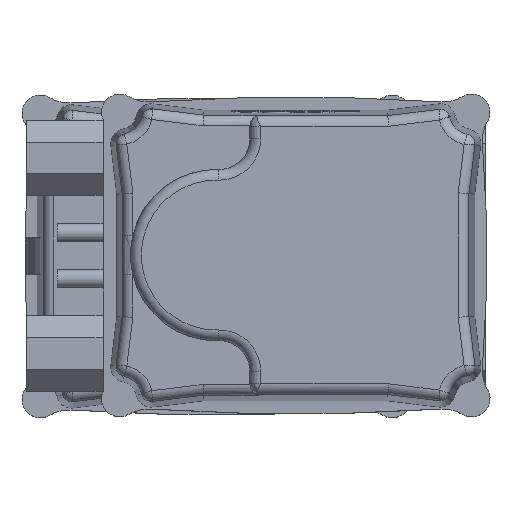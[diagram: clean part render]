
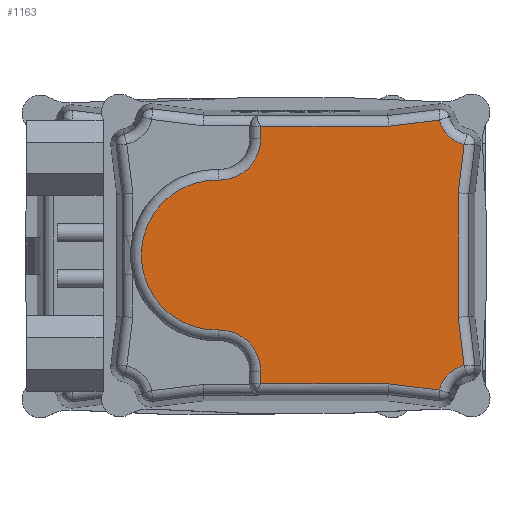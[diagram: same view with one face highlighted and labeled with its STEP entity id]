
A CAD part, top view. The second image highlights one B-rep face of the part: STEP entity #1163.
In plain terms, the highlighted planar face has unit normal (0, 0, 1).
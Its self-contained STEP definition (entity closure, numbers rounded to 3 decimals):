
#1163 = ADVANCED_FACE( '', ( #2649 ), #2650, .T. );
#2649 = FACE_OUTER_BOUND( '', #6771, .T. );
#2650 = PLANE( '', #6772 );
#6771 = EDGE_LOOP( '', ( #12050, #12051, #12052, #12053, #12054, #12055, #12056, #12057, #12058, #12059, #12060, #12061, #12062, #12063, #12064, #12065 ) );
#6772 = AXIS2_PLACEMENT_3D( '', #12066, #12067, #12068 );
#12050 = ORIENTED_EDGE( '', *, *, #16273, .T. );
#12051 = ORIENTED_EDGE( '', *, *, #15842, .T. );
#12052 = ORIENTED_EDGE( '', *, *, #15672, .T. );
#12053 = ORIENTED_EDGE( '', *, *, #16274, .T. );
#12054 = ORIENTED_EDGE( '', *, *, #15618, .T. );
#12055 = ORIENTED_EDGE( '', *, *, #15845, .T. );
#12056 = ORIENTED_EDGE( '', *, *, #16275, .T. );
#12057 = ORIENTED_EDGE( '', *, *, #16276, .T. );
#12058 = ORIENTED_EDGE( '', *, *, #15582, .T. );
#12059 = ORIENTED_EDGE( '', *, *, #15244, .T. );
#12060 = ORIENTED_EDGE( '', *, *, #16058, .T. );
#12061 = ORIENTED_EDGE( '', *, *, #16277, .T. );
#12062 = ORIENTED_EDGE( '', *, *, #15916, .T. );
#12063 = ORIENTED_EDGE( '', *, *, #15439, .T. );
#12064 = ORIENTED_EDGE( '', *, *, #16278, .T. );
#12065 = ORIENTED_EDGE( '', *, *, #15408, .T. );
#12066 = CARTESIAN_POINT( '', ( 47.227, -44.578, 84. ) );
#12067 = DIRECTION( '', ( 0., 0., 1. ) );
#12068 = DIRECTION( '', ( 1., 0., 0. ) );
#15244 = EDGE_CURVE( '', #17424, #17428, #17430, .F. );
#15408 = EDGE_CURVE( '', #17692, #17696, #17698, .T. );
#15439 = EDGE_CURVE( '', #17743, #17747, #17749, .T. );
#15582 = EDGE_CURVE( '', #17976, #17424, #17977, .T. );
#15618 = EDGE_CURVE( '', #18034, #18032, #18035, .T. );
#15672 = EDGE_CURVE( '', #18121, #17459, #18122, .F. );
#15842 = EDGE_CURVE( '', #18402, #18121, #18405, .T. );
#15845 = EDGE_CURVE( '', #18032, #18408, #18410, .T. );
#15916 = EDGE_CURVE( '', #18513, #17743, #18517, .T. );
#16058 = EDGE_CURVE( '', #17428, #18723, #18725, .T. );
#16273 = EDGE_CURVE( '', #17696, #18402, #19025, .T. );
#16274 = EDGE_CURVE( '', #17459, #18034, #19026, .T. );
#16275 = EDGE_CURVE( '', #18408, #19027, #19028, .T. );
#16276 = EDGE_CURVE( '', #19027, #17976, #19029, .F. );
#16277 = EDGE_CURVE( '', #18723, #18513, #19030, .T. );
#16278 = EDGE_CURVE( '', #17747, #17692, #19031, .F. );
#17424 = VERTEX_POINT( '', #21309 );
#17428 = VERTEX_POINT( '', #21313 );
#17430 = CIRCLE( '', #21315, 13.5 );
#17459 = VERTEX_POINT( '', #21394 );
#17692 = VERTEX_POINT( '', #22367 );
#17696 = VERTEX_POINT( '', #22389 );
#17698 = LINE( '', #22391, #22392 );
#17743 = VERTEX_POINT( '', #22446 );
#17747 = VERTEX_POINT( '', #22451 );
#17749 = LINE( '', #22474, #22475 );
#17976 = VERTEX_POINT( '', #22861 );
#17977 = CIRCLE( '', #22862, 24.5 );
#18032 = VERTEX_POINT( '', #23057 );
#18034 = VERTEX_POINT( '', #23080 );
#18035 = LINE( '', #23081, #23082 );
#18121 = VERTEX_POINT( '', #23312 );
#18122 = CIRCLE( '', #23313, 10.907 );
#18402 = VERTEX_POINT( '', #24186 );
#18405 = LINE( '', #24206, #24207 );
#18408 = VERTEX_POINT( '', #24210 );
#18410 = CIRCLE( '', #24212, 0.5 );
#18513 = VERTEX_POINT( '', #24416 );
#18517 = LINE( '', #24442, #24443 );
#18723 = VERTEX_POINT( '', #24960 );
#18725 = LINE( '', #24962, #24963 );
#19025 = LINE( '', #25621, #25622 );
#19026 = LINE( '', #25623, #25624 );
#19027 = VERTEX_POINT( '', #25625 );
#19028 = LINE( '', #25626, #25627 );
#19029 = CIRCLE( '', #25628, 13.5 );
#19030 = CIRCLE( '', #25629, 0.5 );
#19031 = CIRCLE( '', #25630, 10.907 );
#21309 = CARTESIAN_POINT( '', ( 25.355, 24.492, 84. ) );
#21313 = CARTESIAN_POINT( '', ( 11.5, 37.987, 84. ) );
#21315 = AXIS2_PLACEMENT_3D( '', #28116, #28117, #28118 );
#21394 = CARTESIAN_POINT( '', ( -46.913, -44.129, 84. ) );
#22367 = CARTESIAN_POINT( '', ( -55.033, 36.126, 84. ) );
#22389 = CARTESIAN_POINT( '', ( -53.093, 20.331, 84. ) );
#22391 = CARTESIAN_POINT( '', ( -43.752, -55.749, 84. ) );
#22392 = VECTOR( '', #28279, 1000. );
#22446 = CARTESIAN_POINT( '', ( -30.331, 42.093, 84. ) );
#22451 = CARTESIAN_POINT( '', ( -46.913, 44.129, 84. ) );
#22474 = CARTESIAN_POINT( '', ( 56.559, 31.425, 84. ) );
#22475 = VECTOR( '', #28322, 1000. );
#22861 = CARTESIAN_POINT( '', ( 25.355, -24.492, 84. ) );
#22862 = AXIS2_PLACEMENT_3D( '', #28478, #28479, #28480 );
#23057 = CARTESIAN_POINT( '', ( 11.491, -42.093, 84. ) );
#23080 = CARTESIAN_POINT( '', ( -30.331, -42.093, 84. ) );
#23081 = CARTESIAN_POINT( '', ( 47.227, -42.093, 84. ) );
#23082 = VECTOR( '', #28509, 1000. );
#23312 = CARTESIAN_POINT( '', ( -55.033, -36.126, 84. ) );
#23313 = AXIS2_PLACEMENT_3D( '', #28562, #28563, #28564 );
#24186 = CARTESIAN_POINT( '', ( -53.093, -20.331, 84. ) );
#24206 = CARTESIAN_POINT( '', ( -54.536, -32.083, 84. ) );
#24207 = VECTOR( '', #28702, 1000. );
#24210 = CARTESIAN_POINT( '', ( 11.5, -42., 84. ) );
#24212 = AXIS2_PLACEMENT_3D( '', #28706, #28707, #28708 );
#24416 = CARTESIAN_POINT( '', ( 11.491, 42.093, 84. ) );
#24442 = CARTESIAN_POINT( '', ( 47.227, 42.093, 84. ) );
#24443 = VECTOR( '', #28795, 1000. );
#24960 = CARTESIAN_POINT( '', ( 11.5, 42., 84. ) );
#24962 = CARTESIAN_POINT( '', ( 11.5, -44.578, 84. ) );
#24963 = VECTOR( '', #28951, 1000. );
#25621 = CARTESIAN_POINT( '', ( -53.093, -44.578, 84. ) );
#25622 = VECTOR( '', #29188, 1000. );
#25623 = CARTESIAN_POINT( '', ( 45.775, -32.749, 84. ) );
#25624 = VECTOR( '', #29189, 1000. );
#25625 = CARTESIAN_POINT( '', ( 11.5, -37.987, 84. ) );
#25626 = CARTESIAN_POINT( '', ( 11.5, -44.578, 84. ) );
#25627 = VECTOR( '', #29190, 1000. );
#25628 = AXIS2_PLACEMENT_3D( '', #29191, #29192, #29193 );
#25629 = AXIS2_PLACEMENT_3D( '', #29194, #29195, #29196 );
#25630 = AXIS2_PLACEMENT_3D( '', #29197, #29198, #29199 );
#28116 = CARTESIAN_POINT( '', ( 25., 37.987, 84. ) );
#28117 = DIRECTION( '', ( 0., 0., 1. ) );
#28118 = DIRECTION( '', ( 1., 0., 0. ) );
#28279 = DIRECTION( '', ( 0.122, -0.993, 0. ) );
#28322 = DIRECTION( '', ( -0.993, 0.122, 0. ) );
#28478 = CARTESIAN_POINT( '', ( 26., 0., 84. ) );
#28479 = DIRECTION( '', ( 0., 0., 1. ) );
#28480 = DIRECTION( '', ( 1., 0., 0. ) );
#28509 = DIRECTION( '', ( 1., 0., 0. ) );
#28562 = CARTESIAN_POINT( '', ( -57.5, -46.75, 84. ) );
#28563 = DIRECTION( '', ( 0., 0., 1. ) );
#28564 = DIRECTION( '', ( 1., 0., 0. ) );
#28702 = DIRECTION( '', ( -0.122, -0.993, 0. ) );
#28706 = CARTESIAN_POINT( '', ( 11., -42., 84. ) );
#28707 = DIRECTION( '', ( 0., 0., 1. ) );
#28708 = DIRECTION( '', ( 1., 0., 0. ) );
#28795 = DIRECTION( '', ( -1., 0., 0. ) );
#28951 = DIRECTION( '', ( 0., 1., 0. ) );
#29188 = DIRECTION( '', ( 0., -1., 0. ) );
#29189 = DIRECTION( '', ( 0.993, 0.122, 0. ) );
#29190 = DIRECTION( '', ( 0., 1., 0. ) );
#29191 = CARTESIAN_POINT( '', ( 25., -37.987, 84. ) );
#29192 = DIRECTION( '', ( 0., 0., 1. ) );
#29193 = DIRECTION( '', ( 1., 0., 0. ) );
#29194 = CARTESIAN_POINT( '', ( 11., 42., 84. ) );
#29195 = DIRECTION( '', ( 0., 0., 1. ) );
#29196 = DIRECTION( '', ( 1., 0., 0. ) );
#29197 = CARTESIAN_POINT( '', ( -57.5, 46.75, 84. ) );
#29198 = DIRECTION( '', ( 0., 0., 1. ) );
#29199 = DIRECTION( '', ( 1., 0., 0. ) );
